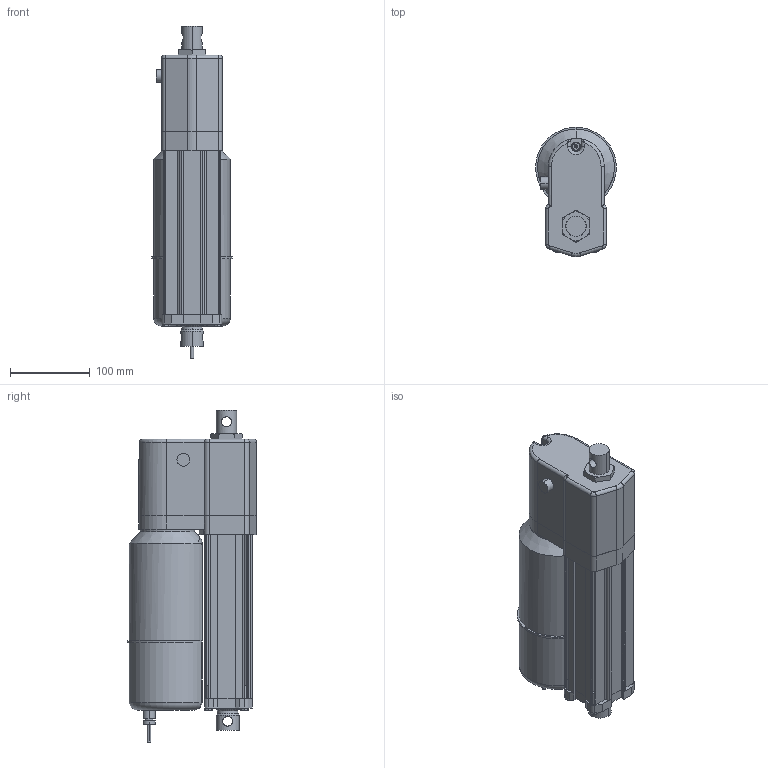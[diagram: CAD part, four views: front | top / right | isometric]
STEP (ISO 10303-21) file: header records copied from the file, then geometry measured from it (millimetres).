
FILE_DESCRIPTION (( 'STEP AP214' ), '1' );
FILE_NAME ('AA22-05B65M-10M0NPO-tollo.step', '2020-04-14T18:49:05', ( '' ), ( '' ), 'SwSTEP 2.0', 'SolidWorks 2010', '' );
FILE_SCHEMA (( 'AUTOMOTIVE_DESIGN' ));
Length unit declared in the file: millimetre
Products named in the file (8): Electrak-LA24-Motor-AA22-05B65M-10M0NPO-tollo_Electrak-LA24-Motor-AA22-05B65M-10M0NPO-tollo; Electrak-LA24-Rear-AA22-05B65M-10M0NPO-tollo_Electrak-LA24-Rear-AA22-05B65M-10M0NPO-tollo; Electrak-LA24-Tube-AA22-05B65M-10M0NPO-tollo_Electrak-LA24-Tube-AA22-05B65M-10M0NPO-tollo; Electrak-LA24-Rod-AA22-05B65M-10M0NPO-tollo_Electrak-LA24-Rod-AA22-05B65M-10M0NPO-tollo; Electrak-LA24-Plate-AA22-05B65M-10M0NPO-tollo_Electrak-LA24-Plate-AA22-05B65M-10M0NPO-tollo; Screw-MFX-H-M5_Screw-MFX-H-M5x24H; Screw-M6S-M5-AA22-05B65M-10M0NPO-tollo_Screw-M6S-M5-AA22-05B65M-10M0NPO-tollo; AA22-05B65M-10M0NPO-tollo
Assembly tree (10 placements, depth 2):
  AA22-05B65M-10M0NPO-tollo
    Electrak-LA24-Rear-AA22-05B65M-10M0NPO-tollo_Electrak-LA24-Rear-AA22-05B65M-10M0NPO-tollo
    Screw-M6S-M5-AA22-05B65M-10M0NPO-tollo_Screw-M6S-M5-AA22-05B65M-10M0NPO-tollo  x4
    Electrak-LA24-Motor-AA22-05B65M-10M0NPO-tollo_Electrak-LA24-Motor-AA22-05B65M-10M0NPO-tollo
    Screw-MFX-H-M5_Screw-MFX-H-M5x24H
    Electrak-LA24-Plate-AA22-05B65M-10M0NPO-tollo_Electrak-LA24-Plate-AA22-05B65M-10M0NPO-tollo
    Electrak-LA24-Rod-AA22-05B65M-10M0NPO-tollo_Electrak-LA24-Rod-AA22-05B65M-10M0NPO-tollo
    Electrak-LA24-Tube-AA22-05B65M-10M0NPO-tollo_Electrak-LA24-Tube-AA22-05B65M-10M0NPO-tollo
Bounding box: 100.99 x 162.5 x 415.3 mm (x, y, z)
Volume: 3050234 mm3; surface area: 314274.1 mm2
Topology: 10 solids, 10 shells, 432 faces, 1077 edges, 685 vertices
Faces by surface type: cylinder 178, plane 175, cone 58, torus 16, bspline 3, sphere 2
Entity records: 11619 total; most frequent: CARTESIAN_POINT 2735, DIRECTION 1825, ORIENTED_EDGE 1714, EDGE_CURVE 857, AXIS2_PLACEMENT_3D 668, VERTEX_POINT 550, VECTOR 489, LINE 489
